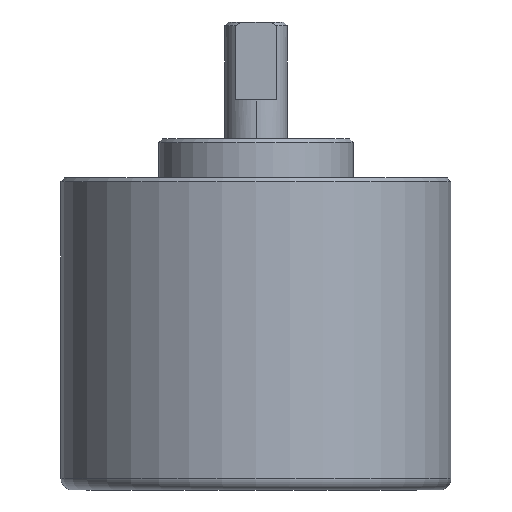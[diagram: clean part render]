
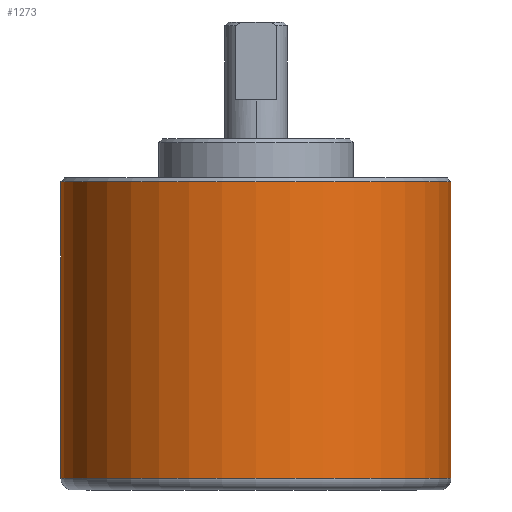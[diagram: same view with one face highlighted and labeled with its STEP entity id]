
A CAD part, front view. The second image highlights one B-rep face of the part: STEP entity #1273.
In plain terms, the highlighted cylindrical face has radius 25 mm (diameter 50 mm), a partial arc.
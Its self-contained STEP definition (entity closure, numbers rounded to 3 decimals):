
#124 = ORIENTED_EDGE ( 'NONE', *, *, #3524, .F. ) ;
#256 = EDGE_CURVE ( 'NONE', #1609, #2224, #3944, .T. ) ;
#381 = CARTESIAN_POINT ( 'NONE',  ( -25., 0., -38.5 ) ) ;
#472 = CARTESIAN_POINT ( 'NONE',  ( 0., 0., -38.5 ) ) ;
#475 = VECTOR ( 'NONE', #4039, 1000. ) ;
#479 = VERTEX_POINT ( 'NONE', #3499 ) ;
#529 = AXIS2_PLACEMENT_3D ( 'NONE', #472, #4448, #3442 ) ;
#800 = DIRECTION ( 'NONE',  ( 0., 0., -1. ) ) ;
#1273 = ADVANCED_FACE ( 'NONE', ( #2771 ), #4937, .T. ) ;
#1609 = VERTEX_POINT ( 'NONE', #5899 ) ;
#1669 = DIRECTION ( 'NONE',  ( 0., 0., -1. ) ) ;
#1977 = ORIENTED_EDGE ( 'NONE', *, *, #4589, .F. ) ;
#2101 = CARTESIAN_POINT ( 'NONE',  ( 25., 0., -0.5 ) ) ;
#2224 = VERTEX_POINT ( 'NONE', #381 ) ;
#2484 = EDGE_CURVE ( 'NONE', #4332, #1609, #5014, .T. ) ;
#2501 = DIRECTION ( 'NONE',  ( 0., 0., -1. ) ) ;
#2699 = AXIS2_PLACEMENT_3D ( 'NONE', #3742, #800, #5214 ) ;
#2771 = FACE_OUTER_BOUND ( 'NONE', #5161, .T. ) ;
#3115 = ORIENTED_EDGE ( 'NONE', *, *, #256, .T. ) ;
#3442 = DIRECTION ( 'NONE',  ( -1., 0., 0. ) ) ;
#3499 = CARTESIAN_POINT ( 'NONE',  ( 25., 0., -38.5 ) ) ;
#3524 = EDGE_CURVE ( 'NONE', #4332, #479, #5391, .T. ) ;
#3558 = ORIENTED_EDGE ( 'NONE', *, *, #2484, .T. ) ;
#3621 = CARTESIAN_POINT ( 'NONE',  ( 0., 0., 0. ) ) ;
#3742 = CARTESIAN_POINT ( 'NONE',  ( 0., 0., -0.5 ) ) ;
#3944 = LINE ( 'NONE', #5983, #475 ) ;
#3979 = CARTESIAN_POINT ( 'NONE',  ( 25., 0., 0. ) ) ;
#4039 = DIRECTION ( 'NONE',  ( 0., 0., -1. ) ) ;
#4332 = VERTEX_POINT ( 'NONE', #2101 ) ;
#4448 = DIRECTION ( 'NONE',  ( 0., 0., -1. ) ) ;
#4589 = EDGE_CURVE ( 'NONE', #479, #2224, #5541, .T. ) ;
#4937 = CYLINDRICAL_SURFACE ( 'NONE', #5577, 25. ) ;
#5014 = CIRCLE ( 'NONE', #2699, 25. ) ;
#5161 = EDGE_LOOP ( 'NONE', ( #3558, #3115, #1977, #124 ) ) ;
#5214 = DIRECTION ( 'NONE',  ( 1., 0., 0. ) ) ;
#5391 = LINE ( 'NONE', #3979, #6239 ) ;
#5541 = CIRCLE ( 'NONE', #529, 25. ) ;
#5577 = AXIS2_PLACEMENT_3D ( 'NONE', #3621, #1669, #5732 ) ;
#5732 = DIRECTION ( 'NONE',  ( 1., 0., 0. ) ) ;
#5899 = CARTESIAN_POINT ( 'NONE',  ( -25., 0., -0.5 ) ) ;
#5983 = CARTESIAN_POINT ( 'NONE',  ( -25., 0., 0. ) ) ;
#6239 = VECTOR ( 'NONE', #2501, 1000. ) ;
